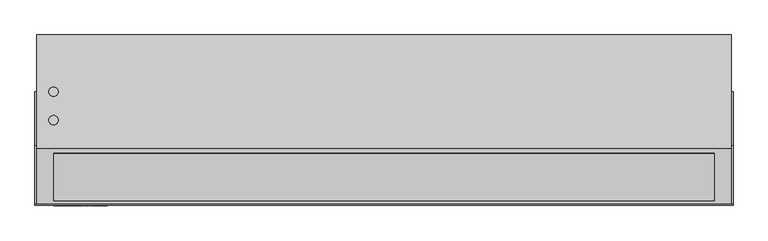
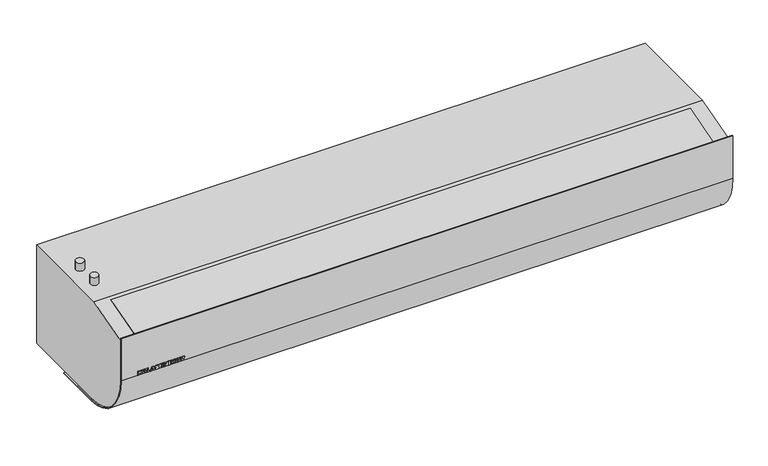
"""IFC4 building model written with IfcOpenShell, lengths in millimetres: proxy geometry, ADSK_Завеса_Водяная : KVC-C15W20-11."""

from ifc_helpers import new_model, si_unit, point, frame, frame_2d, origin, place, context, project, spatial, polyline, circle_curve, trimmed, segment, composite_curve, outline, extrude, source, transform, mapped, element, save
from ifc_brep_helpers import plane_surface, cylinder_surface, advanced_brep


def mechanical_equipment_b95bc2a5(model_context):
    return source(origin(), model_context, "Body", "SolidModel", [
        extrude(outline(polyline([(139.0, -709.0196078), (129.0, -709.0196078), (129.0, -705.8823529), (130.7647059, -705.8823529), (132.7745098, -704.1115196), (129.0, -702.2794118), (129.0, -698.4313725), (135.2775735, -701.9056373), (139.0, -698.627451), (139.0, -702.8982843), (135.2224265, -705.8823529), (139.0, -705.8823529), (139.0, -709.0196078)])), frame((0.0, -367.0, 0.0), z_axis=(0.0, 1.0, 0.0), x_axis=(0.0, 0.0, 1.0)), (0.0, 0.0, 1.0), 1.0),
        extrude(outline(polyline([(130.5686275, -691.4338235), (129.0, -690.9803922), (129.0, -687.6470588), (139.0, -691.0202206), (139.0, -695.0582108), (129.0, -698.4313725), (129.0, -695.0980392), (130.5686275, -694.6660539), (130.5686275, -691.4338235)]), holes=[polyline([(132.9215686, -692.0281863), (132.9215686, -694.0165441), (136.4540441, -693.0392157), (132.9215686, -692.0281863)])]), frame((0.0, -367.0, 0.0), z_axis=(0.0, 1.0, 0.0), x_axis=(0.0, 0.0, 1.0)), (0.0, 0.0, 1.0), 1.0),
        extrude(outline(polyline([(139.0, -686.6666667), (129.0, -686.6666667), (129.0, -678.8235294), (131.3529412, -678.8235294), (131.3529412, -683.5294118), (139.0, -683.5294118), (139.0, -686.6666667)])), frame((0.0, -367.0, 0.0), z_axis=(0.0, 1.0, 0.0), x_axis=(0.0, 0.0, 1.0)), (0.0, 0.0, 1.0), 1.0),
        extrude(outline(polyline([(130.5686275, -671.4338235), (129.0, -670.9803922), (129.0, -667.6470588), (139.0, -671.0202206), (139.0, -675.0582108), (129.0, -678.4313725), (129.0, -675.0980392), (130.5686275, -674.6660539), (130.5686275, -671.4338235)]), holes=[polyline([(132.9215686, -672.0281863), (132.9215686, -674.0165441), (136.4540441, -673.0392157), (132.9215686, -672.0281863)])]), frame((0.0, -367.0, 0.0), z_axis=(0.0, 1.0, 0.0), x_axis=(0.0, 0.0, 1.0)), (0.0, 0.0, 1.0), 1.0),
        extrude(outline(polyline([(132.3394608, -667.254902), (129.8026961, -666.1488971), (128.8039216, -662.6378676), (129.2297794, -660.2420343), (130.4813113, -658.7637868), (132.28125, -658.2352941), (133.7870711, -658.6305147), (134.9129902, -659.8958333), (135.8106618, -662.7757353), (137.4313725, -662.9074755), (137.1050858, -662.1338848), (136.0588235, -661.7647059), (136.2395833, -658.627451), (138.4883578, -659.8054534), (139.1960784, -662.6807598), (138.8039216, -665.1011029), (137.7285539, -666.4231005), (136.276348, -666.8627451), (134.3492647, -665.9957108), (133.1237745, -663.1219363), (131.8186275, -661.372549), (131.0818015, -661.6865809), (130.7647059, -662.5796569), (131.3958333, -663.7775735), (132.5294118, -664.1176471), (132.3394608, -667.254902)])), frame((0.0, -367.0, 0.0), z_axis=(0.0, 1.0, 0.0), x_axis=(0.0, 0.0, 1.0)), (0.0, 0.0, 1.0), 1.0),
        extrude(outline(polyline([(139.0, -656.6666667), (129.0, -656.6666667), (129.0, -653.5294118), (133.1176471, -653.5294118), (133.1176471, -650.1960784), (129.0, -650.1960784), (129.0, -647.0588235), (139.0, -647.0588235), (139.0, -650.1960784), (135.4705882, -650.1960784), (135.4705882, -653.5294118), (139.0, -653.5294118), (139.0, -656.6666667)])), frame((0.0, -367.0, 0.0), z_axis=(0.0, 1.0, 0.0), x_axis=(0.0, 0.0, 1.0)), (0.0, 0.0, 1.0), 1.0),
        extrude(outline(polyline([(139.0, -645.0980392), (129.0, -645.0980392), (129.0, -642.1568627), (134.4901961, -642.1568627), (129.0, -638.4313725), (129.0, -635.4901961), (139.0, -635.4901961), (139.0, -638.4313725), (133.4730392, -638.4313725), (139.0, -642.1783088), (139.0, -645.0980392)])), frame((0.0, -367.0, 0.0), z_axis=(0.0, 1.0, 0.0), x_axis=(0.0, 0.0, 1.0)), (0.0, 0.0, 1.0), 1.0),
        extrude(outline(polyline([(-630.1960784, -367.0), (-633.3333333, -367.0), (-633.3333333, -366.0), (-630.1960784, -366.0), (-630.1960784, -367.0)])), frame((0.0, 0.0, 129.0), z_axis=(0.0, 0.0, 1.0), x_axis=(1.0, 0.0, 0.0)), (0.0, 0.0, 1.0), 10.0),
        extrude(outline(polyline([(139.0, -628.0392157), (129.0, -628.0392157), (129.0, -624.9019608), (130.7647059, -624.9019608), (132.7745098, -623.1311275), (129.0, -621.2990196), (129.0, -617.4509804), (135.2775735, -620.9252451), (139.0, -617.6470588), (139.0, -621.9178922), (135.2224265, -624.9019608), (139.0, -624.9019608), (139.0, -628.0392157)])), frame((0.0, -367.0, 0.0), z_axis=(0.0, 1.0, 0.0), x_axis=(0.0, 0.0, 1.0)), (0.0, 0.0, 1.0), 1.0),
        extrude(outline(polyline([(133.9938725, -616.8627451), (131.0603554, -616.171875), (129.346201, -614.3688725), (128.8039216, -611.5594363), (129.4304534, -608.7729779), (131.1859681, -607.0618873), (134.0765931, -606.4705882), (137.8495711, -607.8247549), (139.1960784, -611.685049), (137.8250613, -615.4947917), (133.9938725, -616.8627451)]), holes=[polyline([(133.9938725, -613.7254902), (136.1813725, -613.1678922), (136.8431373, -611.6911765), (136.1920956, -610.1685049), (134.1286765, -609.6078431), (131.8048407, -610.145527), (131.1568627, -611.6636029), (131.8186275, -613.1709559), (133.9938725, -613.7254902)])]), frame((0.0, -367.0, 0.0), z_axis=(0.0, 1.0, 0.0), x_axis=(0.0, 0.0, 1.0)), (0.0, 0.0, 1.0), 1.0),
        extrude(outline(polyline([(139.0, -605.6862745), (129.0, -601.9699755), (129.0, -598.6397059), (139.0, -594.9019608), (139.0, -598.2352941), (131.8033088, -600.2941176), (139.0, -602.3560049), (139.0, -605.6862745)])), frame((0.0, -367.0, 0.0), z_axis=(0.0, 1.0, 0.0), x_axis=(0.0, 0.0, 1.0)), (0.0, 0.0, 1.0), 1.0),
        extrude(outline(polyline([(-23.6666667, 10.0), (-23.6666667, 0.0), (-43.3333333, 10.0), (-43.3333333, 0.0), (-63.0, 10.0), (-63.0, 0.0), (-82.6666667, 10.0), (-82.6666667, 0.0), (-102.3333333, 10.0), (-102.3333333, 0.0), (-121.9166498, 10.5360909), (-4.0, 10.5360909), (-4.0, 0.0), (-23.6666667, 10.0)])), frame((-710.0, 0.0, 0.0), z_axis=(1.0, 0.0, 0.0), x_axis=(0.0, 1.0, 0.0)), (0.0, 0.0, 1.0), 1420.0),
        advanced_brep(
        [(746.0, -244.0, 258.0), (746.0, -364.0, 223.0), (746.0, -364.0, 129.0), (746.0, -237.0, 2.0), (746.0, 0.0, 2.0), (746.0, 0.0, 258.0), (-746.0, -244.0, 258.0), (-746.0, 0.0, 258.0), (-746.0, 0.0, 2.0), (-746.0, -237.0, 2.0), (-746.0, -364.0, 129.0), (-746.0, -364.0, 223.0), (-700.0, -183.0, 258.0), (-720.0, -183.0, 258.0), (-700.0, -122.0, 258.0), (-720.0, -122.0, 258.0), (710.0, -4.0, 2.0), (-710.0, -4.0, 2.0), (-710.0, -122.0, 2.0), (710.0, -122.0, 2.0), (710.0, -4.0, 10.0), (710.0, -122.0, 10.0), (-710.0, -122.0, 10.0), (-710.0, -4.0, 10.0), (-720.0, -183.0, 278.0), (-700.0, -183.0, 278.0), (-720.0, -122.0, 278.0), (-700.0, -122.0, 278.0)],
        [
            (0, 1),
            (1, 2),
            (2, 3, circle_curve(frame((746.0, -237.0, 129.0), z_axis=(1.0, 0.0, 0.0), x_axis=(0.0, 1.0, 0.0)), 127.0)),
            (3, 4),
            (4, 5),
            (5, 0),
            (6, 7),
            (7, 8),
            (8, 9),
            (9, 10, circle_curve(frame((-746.0, -237.0, 129.0), z_axis=(-1.0, 0.0, 0.0), x_axis=(0.0, 1.0, 0.0)), 127.0)),
            (10, 11),
            (11, 6),
            (1, 11),
            (10, 2),
            (4, 8),
            (7, 5),
            (6, 0),
            (12, 13, circle_curve(frame((-710.0, -183.0, 258.0), z_axis=(0.0, 0.0, -1.0), x_axis=(1.0, 0.0, 0.0)), 10.0)),
            (13, 12, circle_curve(frame((-710.0, -183.0, 258.0), z_axis=(0.0, 0.0, -1.0), x_axis=(1.0, 0.0, 0.0)), 10.0)),
            (14, 15, circle_curve(frame((-710.0, -122.0, 258.0), z_axis=(0.0, 0.0, -1.0), x_axis=(1.0, 0.0, 0.0)), 10.0)),
            (15, 14, circle_curve(frame((-710.0, -122.0, 258.0), z_axis=(0.0, 0.0, -1.0), x_axis=(1.0, 0.0, 0.0)), 10.0)),
            (9, 3),
            (16, 17),
            (17, 18),
            (18, 19),
            (19, 16),
            (20, 21),
            (21, 22),
            (22, 23),
            (23, 20),
            (23, 17),
            (16, 20),
            (22, 18),
            (21, 19),
            (24, 25, circle_curve(frame((-710.0, -183.0, 278.0), z_axis=(0.0, 0.0, 1.0), x_axis=(1.0, 0.0, 0.0)), 10.0)),
            (25, 24, circle_curve(frame((-710.0, -183.0, 278.0), z_axis=(0.0, 0.0, 1.0), x_axis=(1.0, 0.0, 0.0)), 10.0)),
            (26, 27, circle_curve(frame((-710.0, -122.0, 278.0), z_axis=(0.0, 0.0, 1.0), x_axis=(1.0, 0.0, 0.0)), 10.0)),
            (27, 26, circle_curve(frame((-710.0, -122.0, 278.0), z_axis=(0.0, 0.0, 1.0), x_axis=(1.0, 0.0, 0.0)), 10.0)),
            (24, 13),
            (12, 25),
            (26, 15),
            (14, 27),
        ],
        [
            plane_surface(frame((746.0, -244.0, 258.0), z_axis=(1.0, 0.0, 0.0), x_axis=(0.0, -0.9600000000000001, -0.27999999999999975))),
            plane_surface(frame((-746.0, -244.0, 258.0), z_axis=(-1.0, 0.0, 0.0), x_axis=(0.0, 0.9600000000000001, 0.27999999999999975))),
            plane_surface(frame((746.0, -364.0, 223.0), z_axis=(0.0, -1.0, 0.0), x_axis=(-1.0, 0.0, 0.0))),
            plane_surface(frame((746.0, 0.0, 2.0), z_axis=(0.0, 1.0, 0.0), x_axis=(-1.0, 0.0, 0.0))),
            plane_surface(frame((746.0, 0.0, 258.0), z_axis=(0.0, 0.0, 1.0), x_axis=(-1.0, 0.0, 0.0))),
            cylinder_surface(frame((-746.0, -237.0, 129.0), z_axis=(1.0, 0.0, 0.0), x_axis=(0.0, 1.0, 0.0)), 127.0),
            plane_surface(frame((746.0, -237.0, 2.0), z_axis=(0.0, 0.0, -1.0), x_axis=(-1.0, 0.0, 0.0))),
            plane_surface(frame((746.0, -244.0, 258.0), z_axis=(0.0, -0.27999999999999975, 0.9600000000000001), x_axis=(-1.0, 0.0, 0.0))),
            plane_surface(frame((-710.0, -4.0, 10.0), z_axis=(0.0, 0.0, -1.0), x_axis=(-1.0, 0.0, 0.0))),
            plane_surface(frame((710.0, -4.0, 10.0), z_axis=(0.0, -1.0, 0.0), x_axis=(0.0, 0.0, -1.0))),
            plane_surface(frame((-710.0, -4.0, 10.0), z_axis=(1.0, 0.0, 0.0), x_axis=(0.0, 0.0, -1.0))),
            plane_surface(frame((-710.0, -122.0, 10.0), z_axis=(0.0, 1.0, 0.0), x_axis=(0.0, 0.0, -1.0))),
            plane_surface(frame((710.0, -122.0, 10.0), z_axis=(-1.0, 0.0, 0.0), x_axis=(0.0, 0.0, -1.0))),
            plane_surface(frame((-700.0, -183.0, 278.0), z_axis=(0.0, 0.0, 1.0), x_axis=(0.0, 1.0, 0.0))),
            cylinder_surface(frame((-710.0, -183.0, 258.0), z_axis=(0.0, 0.0, 1.0), x_axis=(1.0, 0.0, 0.0)), 10.0),
            cylinder_surface(frame((-710.0, -122.0, 0.0), z_axis=(0.0, 0.0, 1.0), x_axis=(1.0, 0.0, 0.0)), 10.0),
        ],
        [
            (0, [[1, 2, 3, 4, 5, 6]]),
            (1, [[7, 8, 9, 10, 11, 12]]),
            (2, [[-2, 13, -11, 14]]),
            (3, [[-5, 15, -8, 16]]),
            (4, [[-6, -16, -7, 17], [18, 19], [20, 21]]),
            (5, [[-3, -14, -10, 22]]),
            (6, [[-4, -22, -9, -15], [23, 24, 25, 26]]),
            (7, [[-1, -17, -12, -13]]),
            (8, [[27, 28, 29, 30]]),
            (9, [[-30, 31, -23, 32]]),
            (10, [[-29, 33, -24, -31]]),
            (11, [[-28, 34, -25, -33]]),
            (12, [[-27, -32, -26, -34]]),
            (13, [[35, 36]]),
            (13, [[37, 38]]),
            (14, [[-35, 39, -18, 40]]),
            (14, [[-36, -40, -19, -39]]),
            (15, [[-37, 41, -20, 42]]),
            (15, [[-38, -42, -21, -41]]),
        ],
    ),
        extrude(outline(polyline([(0.0, -106.3426612), (0.0, 0.0), (1420.0, 0.0), (1420.0, -106.3426612), (0.0, -106.3426612)])), frame((710.0, -355.390912, 224.7016158), z_axis=(0.0, -0.2799999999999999, 0.9600000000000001), x_axis=(-1.0, 0.0, 0.0)), (0.0, 0.0, 1.0), 1.553987),
        extrude(outline(composite_curve([segment(polyline([(-366.0, 238.0), (-364.0, 238.0), (-364.0, 129.0)]), True, "CONTINUOUS"), segment(trimmed(circle_curve(frame_2d((-237.0, 129.0)), 127.0), [point((-364.0, 129.0))], [point((-237.0, 2.0))], True, "CARTESIAN"), True, "CONTINUOUS"), segment(polyline([(-237.0, 2.0), (-122.0, 2.0), (-122.0, 0.0), (-237.0, 0.0)]), True, "CONTINUOUS"), segment(trimmed(circle_curve(frame_2d((-237.0, 129.0)), 129.0), [point((-237.0, 0.0))], [point((-366.0, 129.0))], False, "CARTESIAN"), True, "CONTINUOUS"), segment(polyline([(-366.0, 129.0), (-366.0, 238.0)]), True, "CONTINUOUS")], self_intersect=False)), frame((-750.0, 0.0, 0.0), z_axis=(1.0, 0.0, 0.0), x_axis=(0.0, 1.0, 0.0)), (0.0, 0.0, 1.0), 1500.0),
    ])


if __name__ == "__main__":
    model = new_model("IFC4")
    model_context = context("Model", 3, world=origin())
    ifc_project = project(units=[si_unit("LENGTHUNIT", "METRE", prefix="MILLI")], contexts=[model_context])
    site = spatial("IfcSite", under=ifc_project)
    building = spatial("IfcBuilding", under=site)
    placement = place(None, origin())
    mechanical_equipment_shape = mechanical_equipment_b95bc2a5(model_context)
    element("IfcBuildingElementProxy", 1, Name="ADSK_Завеса_Водяная : KVC-C15W20-11", ObjectType="ADSK_Завеса_Водяная : KVC-C15W20-11", at=placement, inside=building, context=model_context, shape_type="MappedRepresentation", body=[
        mapped(mechanical_equipment_shape, transform((0.0, 0.0, 0.0), x_axis=(1.0, 0.0, 0.0), y_axis=(0.0, 1.0, 0.0), z_axis=(0.0, 0.0, 1.0))),
    ])
    save(model, "model.ifc")
